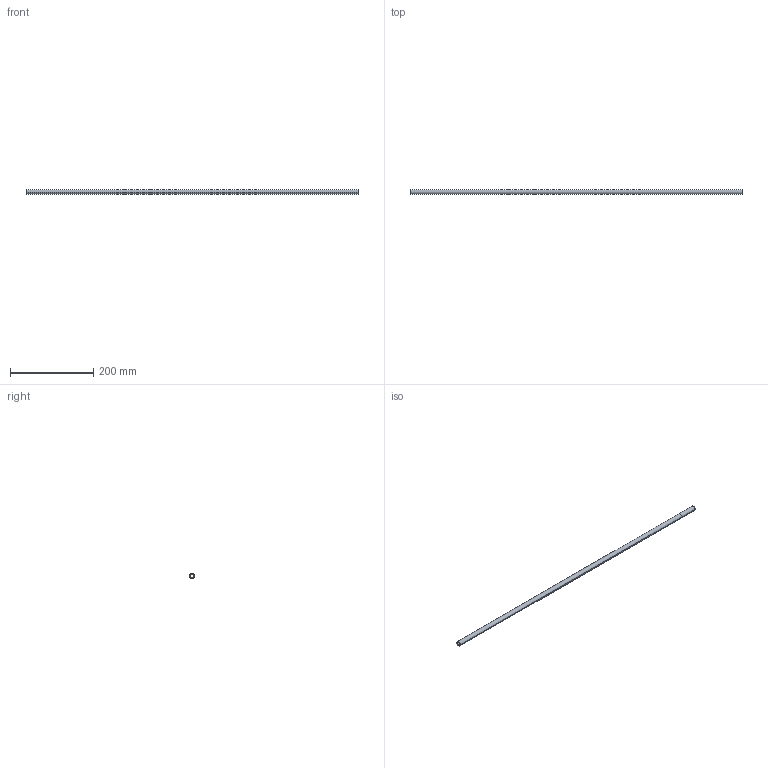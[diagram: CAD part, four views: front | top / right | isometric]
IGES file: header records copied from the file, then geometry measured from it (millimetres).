
Start section: START RECORD GO HERE.
Global section: file name: te128800.igs; native system: DASSAULT SYSTEMES CATIA V5 R20 - www.3ds.com; preprocessor: CATIA Version 5 Release 20 ; author: Utente; organization: NB04-ASUS; date: 20201107.142401; units: millimetre
Bounding box: 800 x 12 x 12 mm (x, y, z)
Surface area: 50865.5 mm2 (no closed solid volume)
Topology: 0 solids, 0 shells, 9 faces, 36 edges, 36 vertices
Faces by surface type: revolution 6, plane 3
